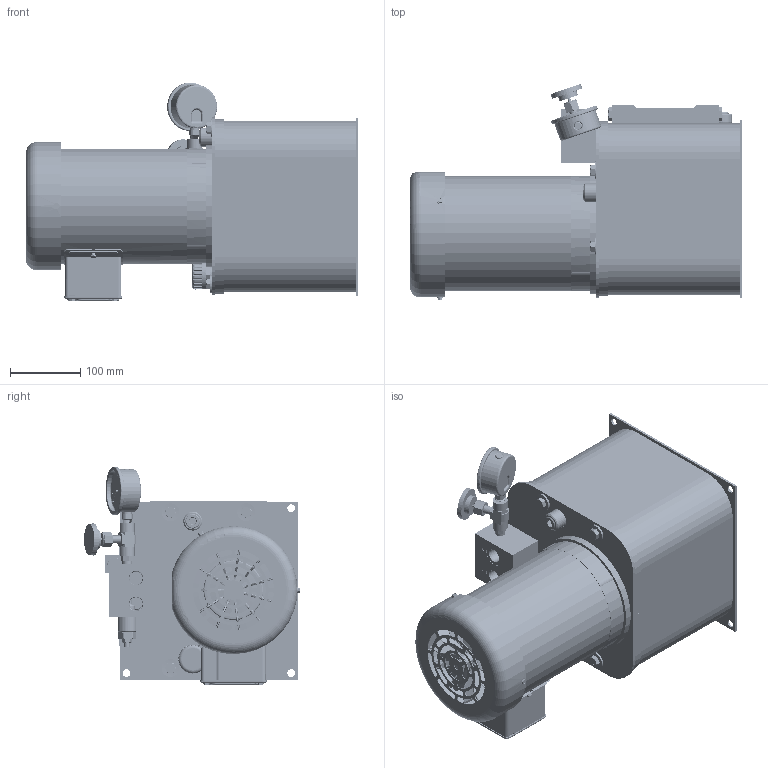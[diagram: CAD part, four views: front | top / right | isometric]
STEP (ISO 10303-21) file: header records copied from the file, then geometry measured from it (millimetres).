
FILE_DESCRIPTION (( 'STEP AP214' ), '1' );
FILE_NAME ('T2V-05-X-NN--047.STEP', '2021-08-25T15:05:13', ( '' ), ( '' ), 'SwSTEP 2.0', 'SolidWorks 2020', '' );
FILE_SCHEMA (( 'AUTOMOTIVE_DESIGN' ));
Length unit declared in the file: inch
Products named in the file (1): T2V-05-X-NN--047
Bounding box: 473.41 x 307.81 x 311.84 mm (x, y, z)
Surface area: 1563164.4 mm2 (no closed solid volume)
Topology: 0 solids, 87 shells, 7713 faces, 19511 edges, 12016 vertices
Faces by surface type: plane 2409, cylinder 2242, bspline 1326, cone 794, torus 648, sphere 294
Entity records: 447032 total; most frequent: CARTESIAN_POINT 178845, ORIENTED_EDGE 38536, DIRECTION 29481, EDGE_CURVE 19287, VERTEX_POINT 11999, AXIS2_PLACEMENT_3D 11323, EDGE_LOOP 8242, LENGTH_MEASURE_WITH_UNIT 7786
